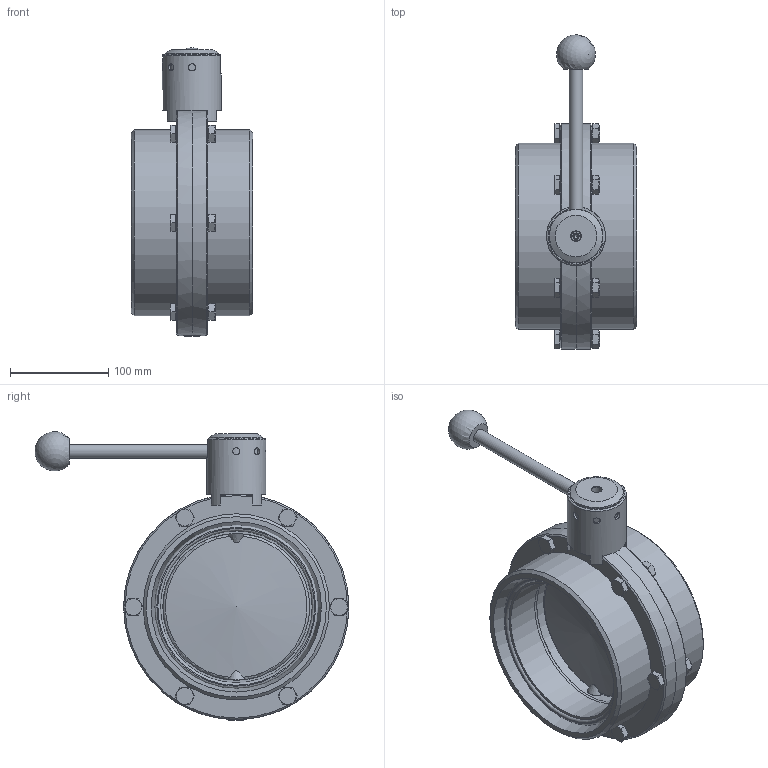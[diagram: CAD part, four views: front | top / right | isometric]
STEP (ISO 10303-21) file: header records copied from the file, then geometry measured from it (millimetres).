
FILE_DESCRIPTION((''),'2;1');
FILE_NAME('K:\2013 konstrukce\4xxxx\43030-KLAPKA PŘÍMÁ G-G\43030-150\43030-150.stp','2019-12-09T14:32:22',('konstrukce'),(''),'Autodesk Inventor 2010','Autodesk Inventor 2010','');
FILE_SCHEMA(('AUTOMOTIVE_DESIGN { 1 0 10303 214 1 1 1 1 }'));
Length unit declared in the file: millimetre
Products named in the file (12): 43030-150; 43820-150; 4338-125-150; 43481-125-150; 43483-125-150; kulicka; tycka; 4328-150-Těsnění pro klapku; 4329-150-Srdca klapky; 20040-150-Těsnění; DIN 933 - nahrazený DIN EN 24017 M10  x 40; DIN 934 - nahrazený DIN EN 24032/28673/28674 M10
Assembly tree (23 placements, depth 3):
  43030-150
    43820-150  x2
    4338-125-150
      43481-125-150
      43483-125-150
      kulicka
      tycka
    4328-150-Těsnění pro klapku
    4329-150-Srdca klapky
    20040-150-Těsnění  x2
    DIN 933 - nahrazený DIN EN 24017 M10  x 40  x6
    DIN 934 - nahrazený DIN EN 24032/28673/28674 M10  x6
Bounding box: 124 x 320.32 x 294.38 mm (x, y, z)
Volume: 2029324.1 mm3; surface area: 433591.3 mm2
Topology: 22 solids, 22 shells, 374 faces, 840 edges, 529 vertices
Faces by surface type: plane 174, cone 88, cylinder 84, bspline 14, torus 13, sphere 1
Full cylindrical faces by diameter (mm): 6.5 x1, 7 x1, 7.3 x3, 9.188 x6, 10 x8, 10.2 x1, 11 x12, 12 x1, 14 x1, 14.5 x1, 15.4 x6, 16.818 x2, 17.5 x2, 17.8 x1, 18 x1, 22 x1, 54.5 x1, 55 x1, 60.3 x1, 150 x2, 155 x4, 166 x2, 166.8 x2, 167 x2, 175 x1, 175.5 x2, 190 x2, 230 x2
Entity records: 5854 total; most frequent: CARTESIAN_POINT 1876, DIRECTION 782, ORIENTED_EDGE 624, AXIS2_PLACEMENT_3D 338, EDGE_CURVE 312, EDGE_LOOP 289, VERTEX_POINT 239, FACE_OUTER_BOUND 171
